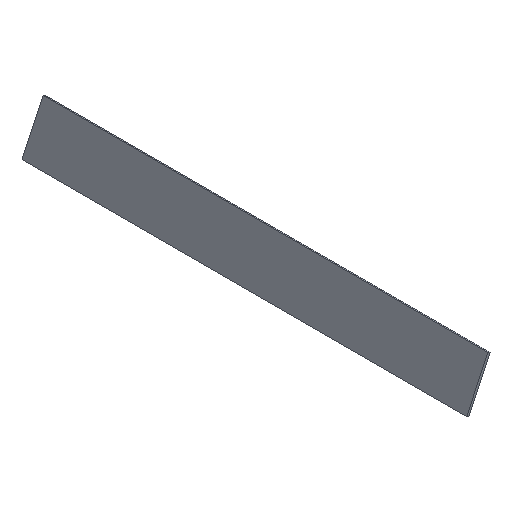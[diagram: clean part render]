
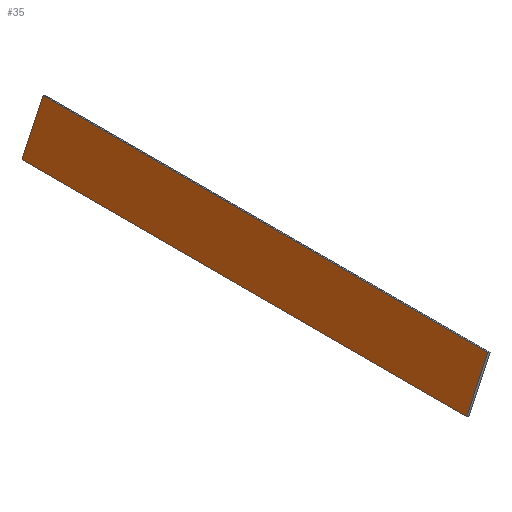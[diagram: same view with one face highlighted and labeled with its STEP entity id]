
A CAD part, isometric view. The second image highlights one B-rep face of the part: STEP entity #35.
In plain terms, the highlighted planar face has unit normal (-0.906, 0, 0.423).
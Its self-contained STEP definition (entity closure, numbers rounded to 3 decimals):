
#35 = ADVANCED_FACE('',(#36),#50,.F.);
#36 = FACE_BOUND('',#37,.F.);
#37 = EDGE_LOOP('',(#38,#73,#98,#126));
#38 = ORIENTED_EDGE('',*,*,#39,.T.);
#39 = EDGE_CURVE('',#40,#42,#44,.T.);
#40 = VERTEX_POINT('',#41);
#41 = CARTESIAN_POINT('',(-175.931,110.,10.575));
#42 = VERTEX_POINT('',#43);
#43 = CARTESIAN_POINT('',(-170.733,110.,21.723));
#44 = SURFACE_CURVE('',#45,(#49,#61),.PCURVE_S1.);
#45 = LINE('',#46,#47);
#46 = CARTESIAN_POINT('',(-175.931,110.,10.575));
#47 = VECTOR('',#48,1.);
#48 = DIRECTION('',(0.423,0.,0.906));
#49 = PCURVE('',#50,#55);
#50 = PLANE('',#51);
#51 = AXIS2_PLACEMENT_3D('',#52,#53,#54);
#52 = CARTESIAN_POINT('',(-175.931,0.15,10.575));
#53 = DIRECTION('',(0.906,0.,-0.423));
#54 = DIRECTION('',(0.423,0.,0.906));
#55 = DEFINITIONAL_REPRESENTATION('',(#56),#60);
#56 = LINE('',#57,#58);
#57 = CARTESIAN_POINT('',(0.,-109.85));
#58 = VECTOR('',#59,1.);
#59 = DIRECTION('',(1.,0.));
#60 = ( GEOMETRIC_REPRESENTATION_CONTEXT(2) 
PARAMETRIC_REPRESENTATION_CONTEXT() REPRESENTATION_CONTEXT('2D SPACE',''
  ) );
#61 = PCURVE('',#62,#67);
#62 = PLANE('',#63);
#63 = AXIS2_PLACEMENT_3D('',#64,#65,#66);
#64 = CARTESIAN_POINT('',(-175.931,110.,10.575));
#65 = DIRECTION('',(-0.,1.,0.));
#66 = DIRECTION('',(0.466,0.,0.885));
#67 = DEFINITIONAL_REPRESENTATION('',(#68),#72);
#68 = LINE('',#69,#70);
#69 = CARTESIAN_POINT('',(0.,0.));
#70 = VECTOR('',#71,1.);
#71 = DIRECTION('',(0.999,-0.049));
#72 = ( GEOMETRIC_REPRESENTATION_CONTEXT(2) 
PARAMETRIC_REPRESENTATION_CONTEXT() REPRESENTATION_CONTEXT('2D SPACE',''
  ) );
#73 = ORIENTED_EDGE('',*,*,#74,.T.);
#74 = EDGE_CURVE('',#42,#75,#77,.T.);
#75 = VERTEX_POINT('',#76);
#76 = CARTESIAN_POINT('',(-170.733,0.15,21.723));
#77 = SURFACE_CURVE('',#78,(#81,#87),.PCURVE_S1.);
#78 = B_SPLINE_CURVE_WITH_KNOTS('',1,(#79,#80),.UNSPECIFIED.,.F.,.F.,(2,
    2),(0.,1.),.PIECEWISE_BEZIER_KNOTS.);
#79 = CARTESIAN_POINT('',(-170.733,110.,21.723));
#80 = CARTESIAN_POINT('',(-170.733,0.15,21.723));
#81 = PCURVE('',#50,#82);
#82 = DEFINITIONAL_REPRESENTATION('',(#83),#86);
#83 = B_SPLINE_CURVE_WITH_KNOTS('',1,(#84,#85),.UNSPECIFIED.,.F.,.F.,(2,
    2),(0.,1.),.PIECEWISE_BEZIER_KNOTS.);
#84 = CARTESIAN_POINT('',(12.3,-109.85));
#85 = CARTESIAN_POINT('',(12.3,0.));
#86 = ( GEOMETRIC_REPRESENTATION_CONTEXT(2) 
PARAMETRIC_REPRESENTATION_CONTEXT() REPRESENTATION_CONTEXT('2D SPACE',''
  ) );
#87 = PCURVE('',#88,#93);
#88 = PLANE('',#89);
#89 = AXIS2_PLACEMENT_3D('',#90,#91,#92);
#90 = CARTESIAN_POINT('',(-170.733,0.15,21.723));
#91 = DIRECTION('',(-0.423,-0.,-0.906));
#92 = DIRECTION('',(0.906,0.,-0.423));
#93 = DEFINITIONAL_REPRESENTATION('',(#94),#97);
#94 = B_SPLINE_CURVE_WITH_KNOTS('',1,(#95,#96),.UNSPECIFIED.,.F.,.F.,(2,
    2),(0.,1.),.PIECEWISE_BEZIER_KNOTS.);
#95 = CARTESIAN_POINT('',(0.,-109.85));
#96 = CARTESIAN_POINT('',(0.,0.));
#97 = ( GEOMETRIC_REPRESENTATION_CONTEXT(2) 
PARAMETRIC_REPRESENTATION_CONTEXT() REPRESENTATION_CONTEXT('2D SPACE',''
  ) );
#98 = ORIENTED_EDGE('',*,*,#99,.F.);
#99 = EDGE_CURVE('',#100,#75,#102,.T.);
#100 = VERTEX_POINT('',#101);
#101 = CARTESIAN_POINT('',(-175.931,0.15,10.575));
#102 = SURFACE_CURVE('',#103,(#107,#114),.PCURVE_S1.);
#103 = LINE('',#104,#105);
#104 = CARTESIAN_POINT('',(-175.931,0.15,10.575));
#105 = VECTOR('',#106,1.);
#106 = DIRECTION('',(0.423,0.,0.906));
#107 = PCURVE('',#50,#108);
#108 = DEFINITIONAL_REPRESENTATION('',(#109),#113);
#109 = LINE('',#110,#111);
#110 = CARTESIAN_POINT('',(0.,0.));
#111 = VECTOR('',#112,1.);
#112 = DIRECTION('',(1.,0.));
#113 = ( GEOMETRIC_REPRESENTATION_CONTEXT(2) 
PARAMETRIC_REPRESENTATION_CONTEXT() REPRESENTATION_CONTEXT('2D SPACE',''
  ) );
#114 = PCURVE('',#115,#120);
#115 = PLANE('',#116);
#116 = AXIS2_PLACEMENT_3D('',#117,#118,#119);
#117 = CARTESIAN_POINT('',(-175.931,0.15,10.575));
#118 = DIRECTION('',(-0.,1.,0.));
#119 = DIRECTION('',(0.466,0.,0.885));
#120 = DEFINITIONAL_REPRESENTATION('',(#121),#125);
#121 = LINE('',#122,#123);
#122 = CARTESIAN_POINT('',(0.,0.));
#123 = VECTOR('',#124,1.);
#124 = DIRECTION('',(0.999,-0.049));
#125 = ( GEOMETRIC_REPRESENTATION_CONTEXT(2) 
PARAMETRIC_REPRESENTATION_CONTEXT() REPRESENTATION_CONTEXT('2D SPACE',''
  ) );
#126 = ORIENTED_EDGE('',*,*,#127,.F.);
#127 = EDGE_CURVE('',#40,#100,#128,.T.);
#128 = SURFACE_CURVE('',#129,(#132,#138),.PCURVE_S1.);
#129 = B_SPLINE_CURVE_WITH_KNOTS('',1,(#130,#131),.UNSPECIFIED.,.F.,.F.,
  (2,2),(0.,1.),.PIECEWISE_BEZIER_KNOTS.);
#130 = CARTESIAN_POINT('',(-175.931,110.,10.575));
#131 = CARTESIAN_POINT('',(-175.931,0.15,10.575));
#132 = PCURVE('',#50,#133);
#133 = DEFINITIONAL_REPRESENTATION('',(#134),#137);
#134 = B_SPLINE_CURVE_WITH_KNOTS('',1,(#135,#136),.UNSPECIFIED.,.F.,.F.,
  (2,2),(0.,1.),.PIECEWISE_BEZIER_KNOTS.);
#135 = CARTESIAN_POINT('',(0.,-109.85));
#136 = CARTESIAN_POINT('',(0.,0.));
#137 = ( GEOMETRIC_REPRESENTATION_CONTEXT(2) 
PARAMETRIC_REPRESENTATION_CONTEXT() REPRESENTATION_CONTEXT('2D SPACE',''
  ) );
#138 = PCURVE('',#139,#144);
#139 = PLANE('',#140);
#140 = AXIS2_PLACEMENT_3D('',#141,#142,#143);
#141 = CARTESIAN_POINT('',(-175.388,0.15,10.322));
#142 = DIRECTION('',(0.423,0.,0.906));
#143 = DIRECTION('',(-0.906,0.,0.423));
#144 = DEFINITIONAL_REPRESENTATION('',(#145),#148);
#145 = B_SPLINE_CURVE_WITH_KNOTS('',1,(#146,#147),.UNSPECIFIED.,.F.,.F.,
  (2,2),(0.,1.),.PIECEWISE_BEZIER_KNOTS.);
#146 = CARTESIAN_POINT('',(0.6,-109.85));
#147 = CARTESIAN_POINT('',(0.6,0.));
#148 = ( GEOMETRIC_REPRESENTATION_CONTEXT(2) 
PARAMETRIC_REPRESENTATION_CONTEXT() REPRESENTATION_CONTEXT('2D SPACE',''
  ) );
